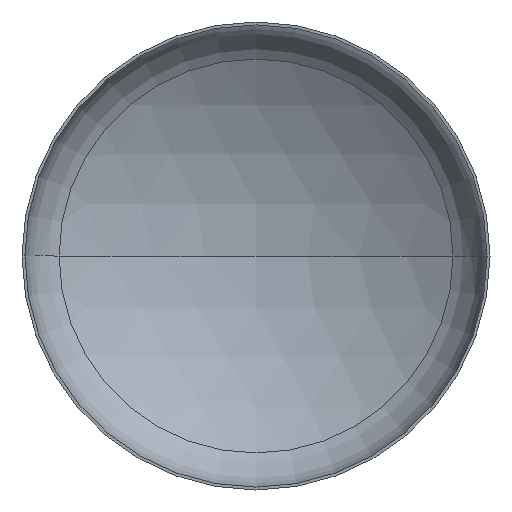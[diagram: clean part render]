
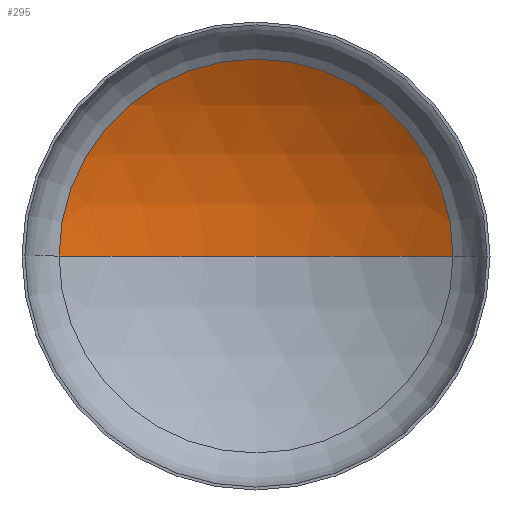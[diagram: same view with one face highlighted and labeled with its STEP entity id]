
A CAD part, front view. The second image highlights one B-rep face of the part: STEP entity #295.
In plain terms, the highlighted spherical face has radius 2880 mm.
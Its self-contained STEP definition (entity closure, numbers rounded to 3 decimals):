
#1 = AXIS2_PLACEMENT_3D ( 'NONE', #398, #400, #222 ) ;
#2 = AXIS2_PLACEMENT_3D ( 'NONE', #133, #343, #344 ) ;
#8 = AXIS2_PLACEMENT_3D ( 'NONE', #237, #386, #276 ) ;
#18 = AXIS2_PLACEMENT_3D ( 'NONE', #179, #134, #70 ) ;
#36 = ORIENTED_EDGE ( 'NONE', *, *, #333, .F. ) ;
#63 = CIRCLE ( 'NONE', #8, 2880. ) ;
#70 = DIRECTION ( 'NONE',  ( -1., 0., 0. ) ) ;
#82 = SPHERICAL_SURFACE ( 'NONE', #18, 2880. ) ;
#127 = CARTESIAN_POINT ( 'NONE',  ( 1514.942, 542.012, 0. ) ) ;
#133 = CARTESIAN_POINT ( 'NONE',  ( 0., 542.012, 0. ) ) ;
#134 = DIRECTION ( 'NONE',  ( 0., 0., -1. ) ) ;
#140 = VERTEX_POINT ( 'NONE', #268 ) ;
#157 = FACE_OUTER_BOUND ( 'NONE', #161, .T. ) ;
#161 = EDGE_LOOP ( 'NONE', ( #36, #267, #188 ) ) ;
#179 = CARTESIAN_POINT ( 'NONE',  ( 0., -1907.346, 0. ) ) ;
#188 = ORIENTED_EDGE ( 'NONE', *, *, #361, .T. ) ;
#204 = CIRCLE ( 'NONE', #1, 2880. ) ;
#222 = DIRECTION ( 'NONE',  ( -1., 0., 0. ) ) ;
#237 = CARTESIAN_POINT ( 'NONE',  ( 0., -1907.346, 0. ) ) ;
#267 = ORIENTED_EDGE ( 'NONE', *, *, #357, .T. ) ;
#268 = CARTESIAN_POINT ( 'NONE',  ( 0., 972.654, 0. ) ) ;
#274 = CARTESIAN_POINT ( 'NONE',  ( -1514.942, 542.012, 0. ) ) ;
#276 = DIRECTION ( 'NONE',  ( 1., 0., 0. ) ) ;
#285 = CIRCLE ( 'NONE', #2, 1514.942 ) ;
#295 = ADVANCED_FACE ( 'NONE', ( #157 ), #82, .F. ) ;
#297 = VERTEX_POINT ( 'NONE', #127 ) ;
#333 = EDGE_CURVE ( 'NONE', #140, #403, #63, .T. ) ;
#343 = DIRECTION ( 'NONE',  ( 0., -1., 0. ) ) ;
#344 = DIRECTION ( 'NONE',  ( 1., 0., 0. ) ) ;
#357 = EDGE_CURVE ( 'NONE', #140, #297, #204, .T. ) ;
#361 = EDGE_CURVE ( 'NONE', #297, #403, #285, .T. ) ;
#386 = DIRECTION ( 'NONE',  ( 0., 0., 1. ) ) ;
#398 = CARTESIAN_POINT ( 'NONE',  ( 0., -1907.346, 0. ) ) ;
#400 = DIRECTION ( 'NONE',  ( 0., 0., -1. ) ) ;
#403 = VERTEX_POINT ( 'NONE', #274 ) ;
